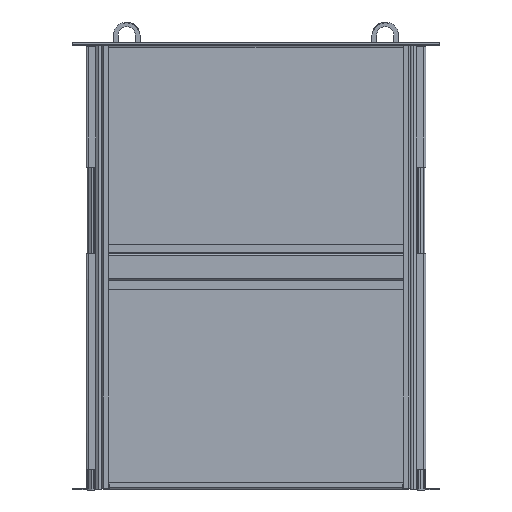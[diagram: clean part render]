
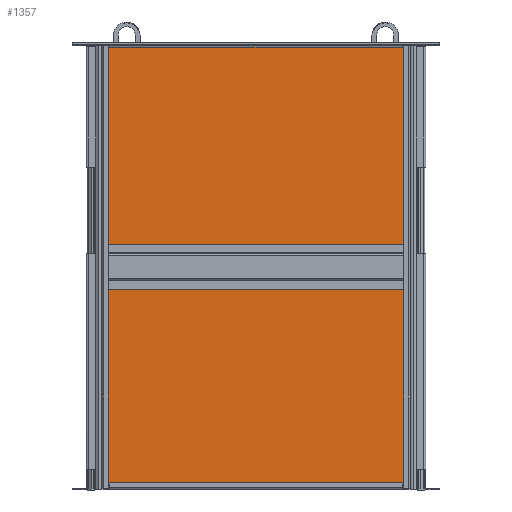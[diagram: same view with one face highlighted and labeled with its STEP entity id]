
A CAD part, front view. The second image highlights one B-rep face of the part: STEP entity #1357.
In plain terms, the highlighted planar face has unit normal (0, -1, 0).
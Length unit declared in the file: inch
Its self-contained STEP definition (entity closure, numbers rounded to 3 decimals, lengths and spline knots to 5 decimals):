
#245=DIRECTION('',(0.,0.,1.));
#246=VECTOR('',#245,22.75);
#247=CARTESIAN_POINT('',(7.835,-0.047,-11.375));
#248=LINE('',#247,#246);
#277=DIRECTION('',(1.,0.,0.));
#278=VECTOR('',#277,15.67);
#279=CARTESIAN_POINT('',(-7.835,-0.047,-11.375));
#280=LINE('',#279,#278);
#453=DIRECTION('',(0.,0.,-1.));
#454=VECTOR('',#453,22.75);
#455=CARTESIAN_POINT('',(-7.835,-0.047,11.375));
#456=LINE('',#455,#454);
#581=DIRECTION('',(-1.,0.,0.));
#582=VECTOR('',#581,15.67);
#583=CARTESIAN_POINT('',(7.835,-0.047,11.375));
#584=LINE('',#583,#582);
#641=CARTESIAN_POINT('',(7.835,-0.047,11.375));
#643=VERTEX_POINT('',#641);
#655=CARTESIAN_POINT('',(-7.835,-0.047,11.375));
#656=VERTEX_POINT('',#655);
#667=CARTESIAN_POINT('',(-7.835,-0.047,-11.375));
#668=VERTEX_POINT('',#667);
#687=CARTESIAN_POINT('',(7.835,-0.047,-11.375));
#688=VERTEX_POINT('',#687);
#1343=CARTESIAN_POINT('',(0.,-0.047,0.));
#1344=DIRECTION('',(0.,1.,0.));
#1345=DIRECTION('',(1.,0.,0.));
#1346=AXIS2_PLACEMENT_3D('',#1343,#1344,#1345);
#1347=PLANE('',#1346);
#1348=ORIENTED_EDGE('',*,*,#1337,.F.);
#1350=ORIENTED_EDGE('',*,*,#1349,.F.);
#1352=ORIENTED_EDGE('',*,*,#1351,.F.);
#1354=ORIENTED_EDGE('',*,*,#1353,.F.);
#1355=EDGE_LOOP('',(#1348,#1350,#1352,#1354));
#1356=FACE_OUTER_BOUND('',#1355,.F.);
#1337=EDGE_CURVE('',#688,#643,#248,.T.);
#1349=EDGE_CURVE('',#668,#688,#280,.T.);
#1351=EDGE_CURVE('',#656,#668,#456,.T.);
#1353=EDGE_CURVE('',#643,#656,#584,.T.);
#1357=ADVANCED_FACE('',(#1356),#1347,.F.);
